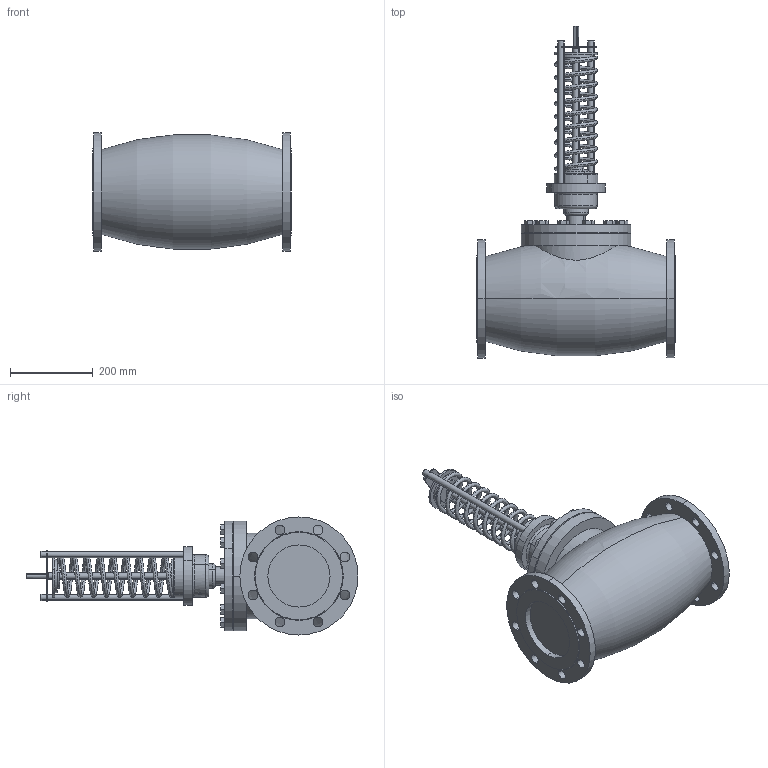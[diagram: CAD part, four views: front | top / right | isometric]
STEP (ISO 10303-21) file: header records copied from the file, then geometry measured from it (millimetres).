
FILE_DESCRIPTION (( 'STEP AP214' ), '1' );
FILE_NAME ('RDT, RDT-B DN-150.STEP', '2025-12-12T06:23:47', ( '' ), ( '' ), 'SwSTEP 2.0', 'SolidWorks 2023', '' );
FILE_SCHEMA (( 'AUTOMOTIVE_DESIGN' ));
Length unit declared in the file: millimetre
Products named in the file (1): RDT, RDT-B DN-150
Bounding box: 480 x 801 x 285 mm (x, y, z)
Volume: 28263728.7 mm3; surface area: 974072 mm2
Topology: 2 solids, 2 shells, 284 faces, 711 edges, 467 vertices
Faces by surface type: plane 132, cylinder 120, cone 13, torus 12, bspline 7
Entity records: 12562 total; most frequent: CARTESIAN_POINT 5379, DIRECTION 1540, ORIENTED_EDGE 1422, EDGE_CURVE 711, AXIS2_PLACEMENT_3D 575, VERTEX_POINT 467, VECTOR 390, LINE 390
